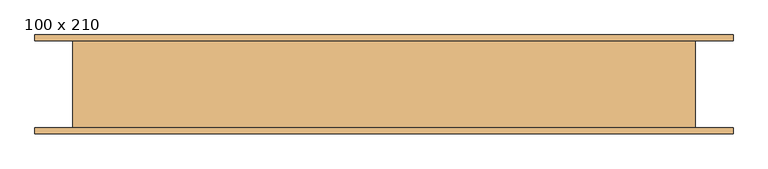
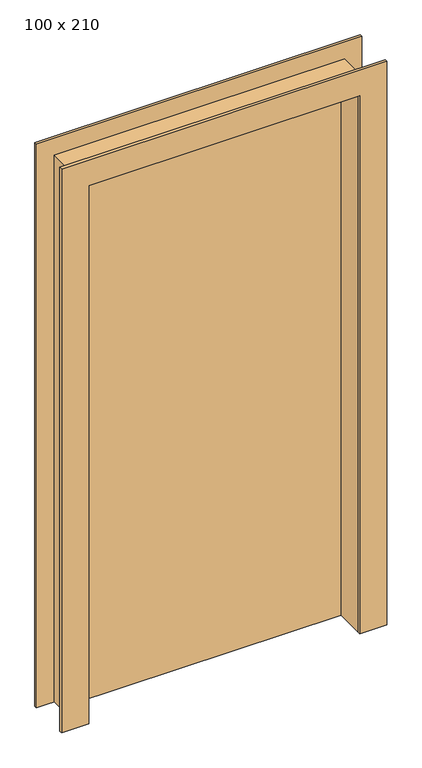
"""IFC4 building model written with IfcOpenShell, lengths in millimetres: door geometry, PORTA PIVOTANTE - 1 FOLHA : 100 x 210."""

import ifcopenshell
import ifcopenshell.guid

model = None  # the IFC model being written
_history = None  # IfcOwnerHistory: only IFC2X3 demands one
_inside = {}  # id of a spatial element -> (the spatial element, [elements in it])
_under = {}  # id of a project, library or spatial element -> (it, [spatial elements below it])
_declared = {}  # id of a project -> (the project, [libraries it declares])
_typed = {}  # id of a type object -> (the type object, [elements of that type])
_made_of = {}  # id of a material, layer set ... -> (it, [elements and type objects made of it])


def new_model(schema):
    """Start an empty IFC model of exactly this schema.

    Asked for "IFC4X3", IfcOpenShell would pick the latest addendum, in which some entities
    have other attributes; the version numbers below select the first issue.
    IFC2X3 requires an IfcOwnerHistory on every rooted entity: one is made here for all.
    """
    global model, _history
    if schema == "IFC4X3":
        model = ifcopenshell.file(schema_version=(4, 3, 0, 0))
    else:
        model = ifcopenshell.file(schema=schema)
    _inside.clear()
    _under.clear()
    _declared.clear()
    _typed.clear()
    _made_of.clear()
    _history = None
    if model.schema == "IFC2X3":
        org = make("IfcOrganization", Name="unknown")
        user = make(
            "IfcPersonAndOrganization",
            ThePerson=make("IfcPerson", FamilyName="unknown"),
            TheOrganization=org,
        )
        app = make(
            "IfcApplication",
            ApplicationDeveloper=org,
            Version="unknown",
            ApplicationFullName="unknown",
            ApplicationIdentifier="unknown",
        )
        _history = make(
            "IfcOwnerHistory",
            OwningUser=user,
            OwningApplication=app,
            ChangeAction="ADDED",
            CreationDate=0,
        )
    return model


def make(cls, **values):
    """One entity of the class cls with the attributes given. An attribute that is None is left unset."""
    return model.create_entity(
        cls, **{name: value for name, value in values.items() if value is not None}
    )


def rooted(cls, **values):
    """An entity with a GlobalId (a new one), such as an element, a storey or a relation."""
    return make(cls, GlobalId=ifcopenshell.guid.new(), OwnerHistory=_history, **values)


def si_unit(unit_type, name, prefix=None):
    """IfcSIUnit, for example si_unit("LENGTHUNIT", "METRE", prefix="MILLI")."""
    return make("IfcSIUnit", UnitType=unit_type, Prefix=prefix, Name=name)


def assignment(units):
    """IfcUnitAssignment: the units of a project."""
    return None if units is None else make("IfcUnitAssignment", Units=units)


def point(xyz):
    """IfcCartesianPoint."""
    return None if xyz is None else make("IfcCartesianPoint", Coordinates=xyz)


def direction(xyz):
    """IfcDirection."""
    return None if xyz is None else make("IfcDirection", DirectionRatios=xyz)


def frame(location, z_axis=None, x_axis=None):
    """IfcAxis2Placement3D, a coordinate frame: its origin and axes. An axis left out is left unset."""
    return make(
        "IfcAxis2Placement3D",
        Location=point(location),
        Axis=direction(z_axis),
        RefDirection=direction(x_axis),
    )


def origin():
    """The frame at (0, 0, 0) with its axes left unset."""
    return frame((0.0, 0.0, 0.0))


def origin_with_axes():
    """The frame at (0, 0, 0) with the z axis (0, 0, 1) and the x axis (1, 0, 0) written out."""
    return frame((0.0, 0.0, 0.0), z_axis=(0.0, 0.0, 1.0), x_axis=(1.0, 0.0, 0.0))


def place(relative_to, where):
    """IfcLocalPlacement: puts the frame where relative to a parent placement (None: the world)."""
    return make(
        "IfcLocalPlacement", PlacementRelTo=relative_to, RelativePlacement=where
    )


def context(
    kind, dimensions, precision=None, world=None, true_north=None, identifier=None
):
    """IfcGeometricRepresentationContext, for example the 3D "Model" context."""
    return make(
        "IfcGeometricRepresentationContext",
        ContextIdentifier=identifier,
        ContextType=kind,
        CoordinateSpaceDimension=dimensions,
        Precision=precision,
        WorldCoordinateSystem=world,
        TrueNorth=true_north,
    )


def project(units=None, contexts=None):
    """IfcProject with its units and contexts."""
    return rooted(
        "IfcProject",
        Name="project",
        RepresentationContexts=contexts,
        UnitsInContext=assignment(units),
    )


def spatial(cls, under=None, at=None, **own):
    """A site, building, storey or space (cls), placed at a placement, below another one or the project."""
    s = rooted(cls, ObjectPlacement=at, **own)
    if under is not None:
        _under.setdefault(under.id(), (under, []))[1].append(s)
    return s


def polyline(points):
    """IfcPolyline through the points."""
    return make("IfcPolyline", Points=[point(p) for p in points])


def outline(outer, holes=None, kind="AREA"):
    """IfcArbitraryClosedProfileDef: a profile drawn as a closed curve; with holes, ...WithVoids."""
    if holes is None:
        return make("IfcArbitraryClosedProfileDef", ProfileType=kind, OuterCurve=outer)
    return make(
        "IfcArbitraryProfileDefWithVoids",
        ProfileType=kind,
        OuterCurve=outer,
        InnerCurves=holes,
    )


def extrude(swept, where, along, depth):
    """IfcExtrudedAreaSolid: the profile swept, set in the frame where, extruded along a direction by depth."""
    return make(
        "IfcExtrudedAreaSolid",
        SweptArea=swept,
        Position=where,
        ExtrudedDirection=direction(along),
        Depth=depth,
    )


def shape(context_of_items, identifier, shape_type, items):
    """IfcShapeRepresentation: the items that make up one representation, for example the "Body"."""
    return make(
        "IfcShapeRepresentation",
        ContextOfItems=context_of_items,
        RepresentationIdentifier=identifier,
        RepresentationType=shape_type,
        Items=items,
    )


def source(mapping_origin, context_of_items, identifier, shape_type, items):
    """IfcRepresentationMap: a shape defined once, which mapped items show again and again."""
    return make(
        "IfcRepresentationMap",
        MappingOrigin=mapping_origin,
        MappedRepresentation=shape(context_of_items, identifier, shape_type, items),
    )


def transform(
    local_origin,
    x_axis=None,
    y_axis=None,
    z_axis=None,
    scale=None,
    scale2=None,
    scale3=None,
    uniform=True,
):
    """IfcCartesianTransformationOperator3D, or its non-uniform kind. x_axis, y_axis, z_axis: its Axis1, 2, 3."""
    if uniform:
        return make(
            "IfcCartesianTransformationOperator3D",
            Axis1=direction(x_axis),
            Axis2=direction(y_axis),
            LocalOrigin=point(local_origin),
            Scale=scale,
            Axis3=direction(z_axis),
        )
    return make(
        "IfcCartesianTransformationOperator3DnonUniform",
        Axis1=direction(x_axis),
        Axis2=direction(y_axis),
        LocalOrigin=point(local_origin),
        Scale=scale,
        Axis3=direction(z_axis),
        Scale2=scale2,
        Scale3=scale3,
    )


def mapped(mapping_source, mapping_target):
    """IfcMappedItem: shows the shape of a source again, moved by a transform."""
    return make(
        "IfcMappedItem", MappingSource=mapping_source, MappingTarget=mapping_target
    )


def made_of(thing, what):
    """Note that an element or type object is made of a material, layer set ...; save() writes the relation."""
    if what is not None:
        _made_of.setdefault(what.id(), (what, []))[1].append(thing)
    return thing


def element(
    cls,
    number,
    at=None,
    inside=None,
    cuts=None,
    type_object=None,
    material=None,
    context=None,
    identifier="Body",
    shape_type=None,
    held_by="IfcProductDefinitionShape",
    body=None,
    shapes=None,
    **own,
):
    """One element of the class cls, such as IfcWall. Its Tag is "e" and its number.

    at: its placement. inside: the storey or other place that contains it. cuts: it is an
    opening in that element (IfcRelVoidsElement). A single representation is given by context,
    identifier, shape_type and body (its items); several are given by shapes. held_by: the class
    of the entity that holds the representations. save() writes the other relations.
    """
    e = rooted(cls, Tag="e%d" % number, ObjectPlacement=at, **own)
    if body is not None:
        shapes = [shape(context, identifier, shape_type, body)]
    if shapes is not None:
        e.Representation = make(held_by, Representations=shapes)
    if inside is not None:
        _inside.setdefault(inside.id(), (inside, []))[1].append(e)
    if cuts is not None:
        rooted(
            "IfcRelVoidsElement", RelatingBuildingElement=cuts, RelatedOpeningElement=e
        )
    if type_object is not None:
        _typed.setdefault(type_object.id(), (type_object, []))[1].append(e)
    return made_of(e, material)


def aggregate(whole, parts):
    """IfcRelAggregates: a whole, such as a stair, and the parts it consists of."""
    return rooted("IfcRelAggregates", RelatingObject=whole, RelatedObjects=parts)


def save(model, path):
    """Write the relations noted so far, then the file.

    IfcRelAggregates (storeys below a building ...), IfcRelContainedInSpatialStructure (elements
    in a storey), IfcRelDefinesByType, IfcRelAssociatesMaterial and IfcRelDeclares: one each for
    every whole, place, type object, material and project.
    """
    for whole, parts in _under.values():
        aggregate(whole, parts)
    for where, things in _inside.values():
        rooted(
            "IfcRelContainedInSpatialStructure",
            RelatedElements=things,
            RelatingStructure=where,
        )
    for kind, things in _typed.values():
        rooted("IfcRelDefinesByType", RelatedObjects=things, RelatingType=kind)
    for what, things in _made_of.values():
        rooted("IfcRelAssociatesMaterial", RelatedObjects=things, RelatingMaterial=what)
    for by, libraries in _declared.values():
        rooted("IfcRelDeclares", RelatingContext=by, RelatedDefinitions=libraries)
    model.write(path)


def door_100_x_210_65537fdf(model_context):
    return source(origin(), model_context, "Body", "SweptSolid", [
        extrude(outline(polyline([(580.0, 75.0), (580.0, 35.0), (-420.0, 35.0), (-420.0, 75.0), (580.0, 75.0)])), origin_with_axes(), (0.0, 0.0, 1.0), 2100.0),
        extrude(outline(polyline([(2100.0, 580.0), (0.0, 580.0), (0.0, 680.0), (2200.0, 680.0), (2200.0, -520.0), (0.0, -520.0), (0.0, -420.0), (2100.0, -420.0), (2100.0, 580.0)])), frame((0.0, -85.0, 0.0), z_axis=(0.0, 1.0, 0.0), x_axis=(0.0, 0.0, 1.0)), (0.0, 0.0, 1.0), 10.0),
        extrude(outline(polyline([(2100.0, -420.0), (2100.0, 580.0), (0.0, 580.0), (0.0, 680.0), (2200.0, 680.0), (2200.0, -520.0), (0.0, -520.0), (0.0, -420.0), (2100.0, -420.0)])), frame((0.0, 75.0, 0.0), z_axis=(0.0, 1.0, 0.0), x_axis=(0.0, 0.0, 1.0)), (0.0, 0.0, 1.0), 10.0),
        extrude(outline(polyline([(0.0, -420.0), (2100.0, -420.0), (2100.0, 580.0), (0.0, 580.0), (0.0, 615.0), (2135.0, 615.0), (2135.0, -455.0), (0.0, -455.0), (0.0, -420.0)])), frame((0.0, -75.0, 0.0), z_axis=(0.0, 1.0, 0.0), x_axis=(0.0, 0.0, 1.0)), (0.0, 0.0, 1.0), 150.0),
    ])


if __name__ == "__main__":
    model = new_model("IFC4")
    model_context = context("Model", 3, world=origin())
    ifc_project = project(units=[si_unit("LENGTHUNIT", "METRE", prefix="MILLI")], contexts=[model_context])
    site = spatial("IfcSite", under=ifc_project)
    building = spatial("IfcBuilding", under=site)
    placement = place(None, origin())
    door_100_x_210_shape = door_100_x_210_65537fdf(model_context)
    element("IfcDoor", 1, ObjectType="PORTA PIVOTANTE - 1 FOLHA : 100 x 210", at=placement, inside=building, context=model_context, shape_type="MappedRepresentation", body=[
        mapped(door_100_x_210_shape, transform((0.0, 0.0, 0.0), x_axis=(1.0, 0.0, 0.0), y_axis=(0.0, 1.0, 0.0), z_axis=(0.0, 0.0, 1.0))),
    ])
    save(model, "model.ifc")
